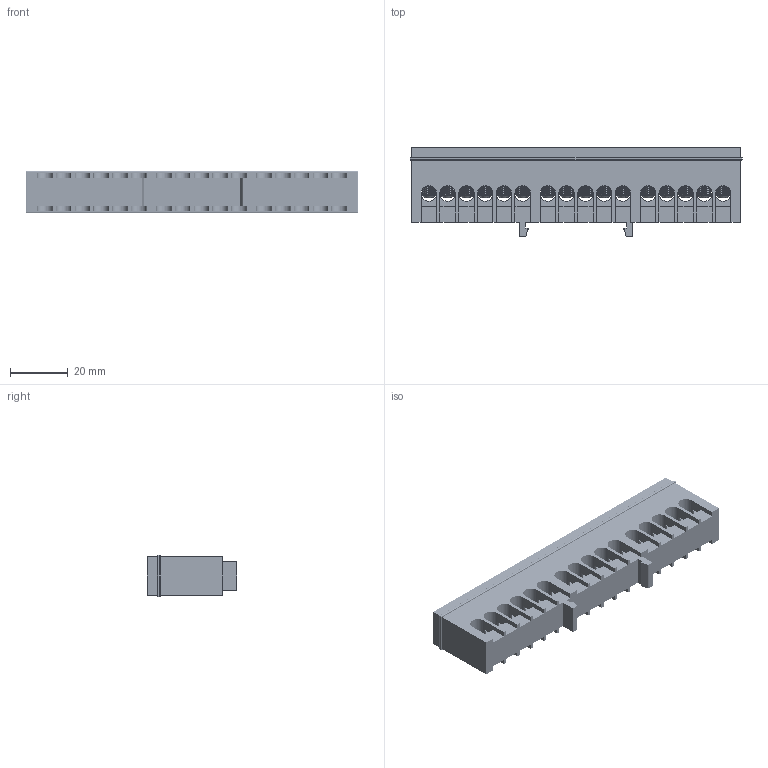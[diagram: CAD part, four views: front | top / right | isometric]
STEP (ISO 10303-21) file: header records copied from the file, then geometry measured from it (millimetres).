
FILE_DESCRIPTION (( 'STEP AP214' ), '1' );
FILE_NAME ('Øèíà íóëåâàÿ â èçîëÿöèè 6õ9 16.STEP', '2020-02-06T11:12:31', ( '' ), ( '' ), 'SwSTEP 2.0', 'SolidWorks 2018', '' );
FILE_SCHEMA (( 'AUTOMOTIVE_DESIGN' ));
Length unit declared in the file: millimetre
Products named in the file (4): Âèíò ì5; Øèíà íóëåâàÿ 6õ9 16; Èçîëÿöèÿ äëÿ øèíû íóëåâîé 6õ9 16; Øèíà íóëåâàÿ â èçîëÿöèè 6õ9 16
Assembly tree (18 placements, depth 2):
  Øèíà íóëåâàÿ â èçîëÿöèè 6õ9 16
    Èçîëÿöèÿ äëÿ øèíû íóëåâîé 6õ9 16
    Øèíà íóëåâàÿ 6õ9 16
    Âèíò ì5  x16
Bounding box: 115 x 31 x 14.5 mm (x, y, z)
Volume: 28820.8 mm3; surface area: 25669.1 mm2
Topology: 18 solids, 18 shells, 1509 faces, 4423 edges, 2850 vertices
Faces by surface type: cylinder 593, plane 588, cone 160, torus 112, bspline 48, sphere 8
Entity records: 17450 total; most frequent: CARTESIAN_POINT 5604, ORIENTED_EDGE 2526, DIRECTION 2238, EDGE_CURVE 1263, VECTOR 844, LINE 844, VERTEX_POINT 810, AXIS2_PLACEMENT_3D 697
